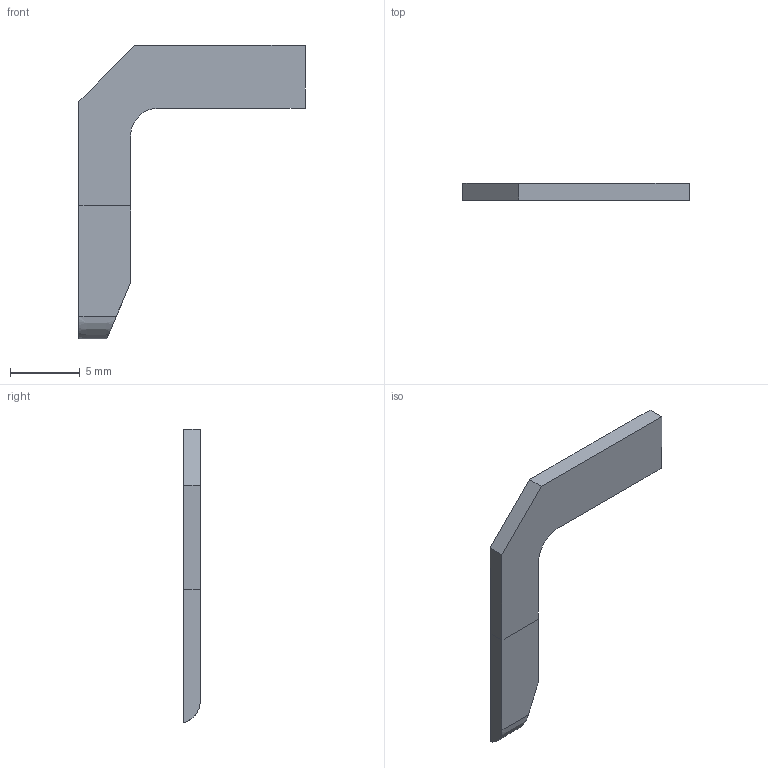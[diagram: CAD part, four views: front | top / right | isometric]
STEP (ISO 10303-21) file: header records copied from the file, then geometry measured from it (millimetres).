
FILE_DESCRIPTION(('STEP AP203'), '1');
FILE_NAME('5122200.001 Ëîïàòêà', '2024-07-03T08:23:09', ('Niko'), (''), 'C3D Converter', 'C3D Toolkit', '');
FILE_SCHEMA(('CONFIG_CONTROL_DESIGN'));
Length unit declared in the file: millimetre
Products named in the file (1): 5122200.001
Bounding box: 16.2 x 1.2 x 21 mm (x, y, z)
Volume: 147 mm3; surface area: 328.4 mm2
Topology: 1 solids, 1 shells, 15 faces, 35 edges, 22 vertices
Faces by surface type: plane 13, cylinder 1, bspline 1
Entity records: 805 total; most frequent: CARTESIAN_POINT 306, ORIENTED_EDGE 70, DIRECTION 65, EDGE_CURVE 35, LINE 31, VECTOR 31, VERTEX_POINT 22, AXIS2_PLACEMENT_3D 17
